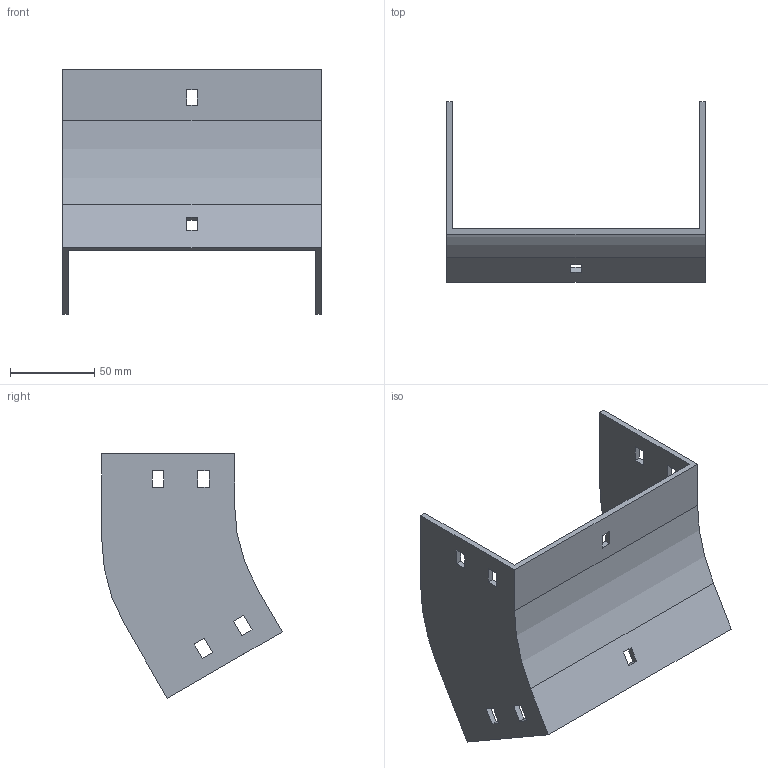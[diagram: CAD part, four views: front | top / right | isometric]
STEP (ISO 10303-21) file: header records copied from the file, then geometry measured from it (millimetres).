
FILE_DESCRIPTION (( 'STEP AP214' ), '1' );
FILE_NAME ('35F1C150.step', '2025-02-21T12:49:52', ( '' ), ( '' ), 'SwSTEP 2.0', 'SolidWorks 2023', '' );
FILE_SCHEMA (( 'AUTOMOTIVE_DESIGN' ));
Length unit declared in the file: millimetre
Products named in the file (1): 35F1C150
Bounding box: 154 x 107.4 x 145.48 mm (x, y, z)
Volume: 130432.2 mm3; surface area: 78913.1 mm2
Topology: 1 solids, 1 shells, 58 faces, 168 edges, 112 vertices
Faces by surface type: plane 54, cylinder 4
Entity records: 1943 total; most frequent: CARTESIAN_POINT 339, ORIENTED_EDGE 336, DIRECTION 294, EDGE_CURVE 168, LINE 160, VECTOR 160, VERTEX_POINT 112, EDGE_LOOP 78
